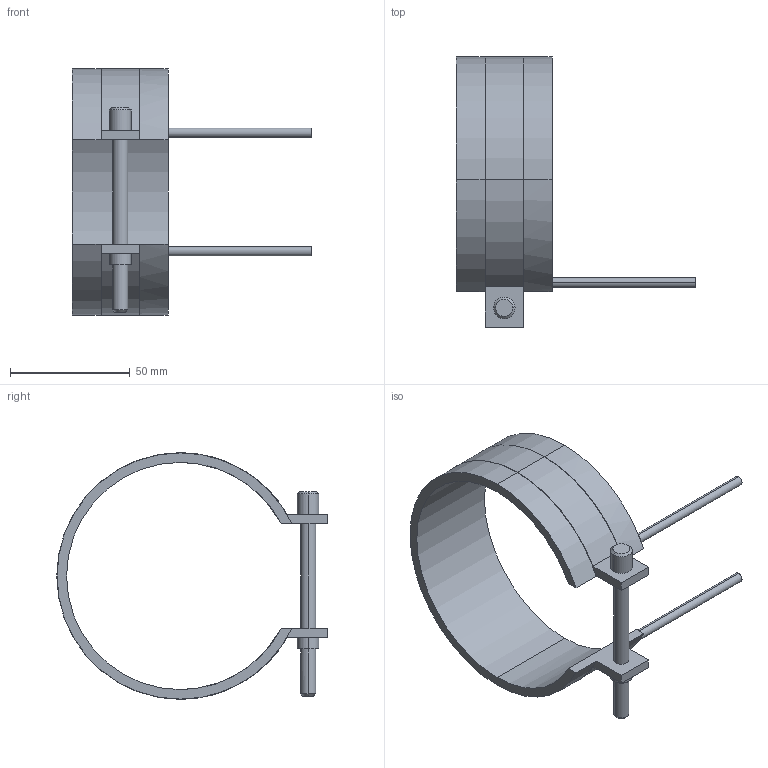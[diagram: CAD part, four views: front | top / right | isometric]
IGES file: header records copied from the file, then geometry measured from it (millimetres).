
Start section: START RECORD GO HERE.
Global section: file name: 14095040.igs; native system: DASSAULT SYSTEMES CATIA V5 R20 - www.3ds.com; preprocessor: CATIA Version 5 Release 20 ; author: Utente; organization: NB04-ASUS; date: 20210406.180419; units: millimetre
Bounding box: 100 x 113.1 x 103.2 mm (x, y, z)
Surface area: 28153.3 mm2 (no closed solid volume)
Topology: 0 solids, 0 shells, 45 faces, 232 edges, 232 vertices
Faces by surface type: revolution 28, plane 17
